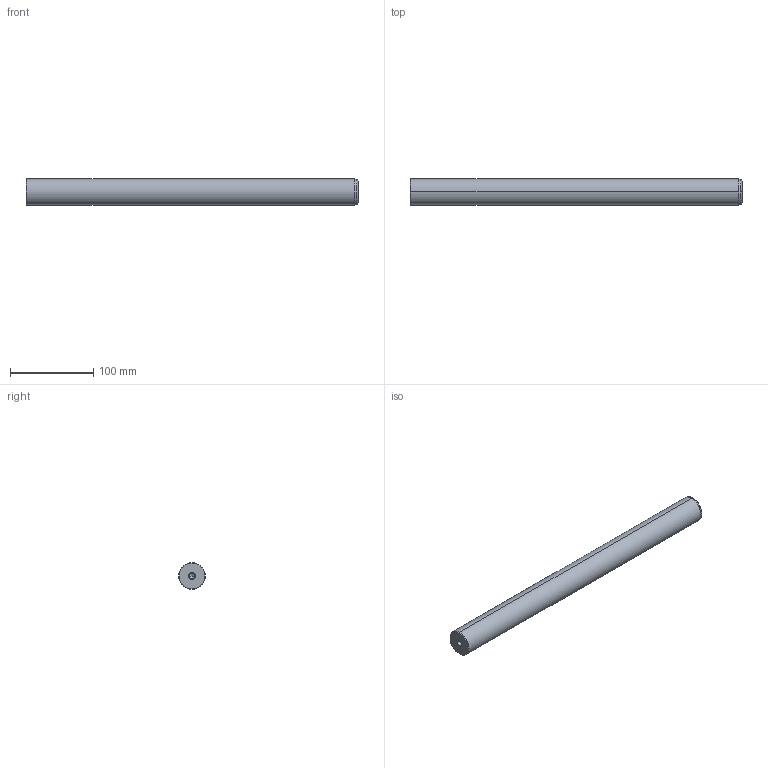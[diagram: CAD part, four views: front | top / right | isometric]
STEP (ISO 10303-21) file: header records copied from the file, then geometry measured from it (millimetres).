
FILE_DESCRIPTION(('CATIA V5 STEP Exchange'),'2;1');
FILE_NAME('C:\Users\Utente\Desktop\IO LAVORO\3D X SITO CF\X SITO\720\720-32x400.stp','2021-01-01T12:11:03+00:00',('none'),('none'),'CATIA Version 5 Release 20 GA (IN-10)','CATIA V5 STEP AP203','none');
FILE_SCHEMA(('CONFIG_CONTROL_DESIGN'));
Length unit declared in the file: millimetre
Products named in the file (1): 720-32x400
Bounding box: 400 x 32 x 32 mm (x, y, z)
Volume: 319646.6 mm3; surface area: 42605.1 mm2
Topology: 1 solids, 1 shells, 22 faces, 62 edges, 40 vertices
Faces by surface type: cone 12, cylinder 6, plane 2, torus 2
Entity records: 806 total; most frequent: CARTESIAN_POINT 229, ORIENTED_EDGE 116, DIRECTION 93, EDGE_CURVE 58, AXIS2_PLACEMENT_3D 54, VERTEX_POINT 40, CIRCLE 31, EDGE_LOOP 24
